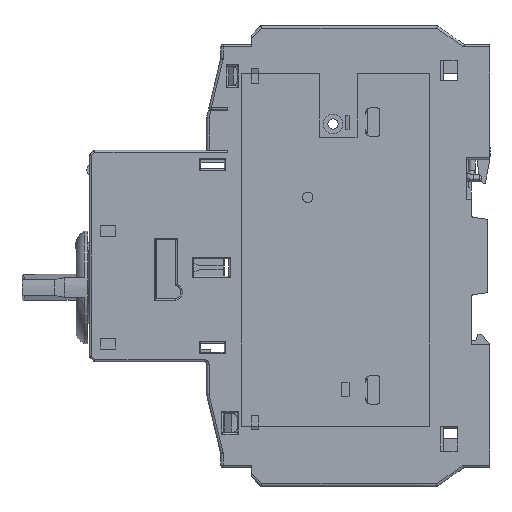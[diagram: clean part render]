
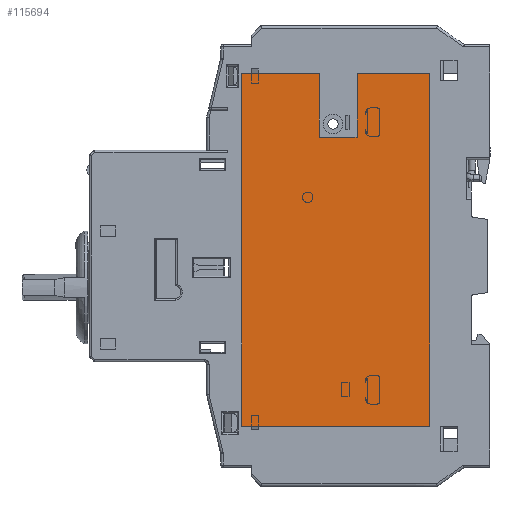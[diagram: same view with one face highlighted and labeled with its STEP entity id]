
A CAD part, left-side view. The second image highlights one B-rep face of the part: STEP entity #115694.
In plain terms, the highlighted planar face has unit normal (-1, 0, 0).
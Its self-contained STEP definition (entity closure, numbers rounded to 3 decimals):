
#26926=DIRECTION('',(0.,-1.,0.));
#26927=VECTOR('',#26926,40.);
#26928=CARTESIAN_POINT('',(-8.2,52.8,-36.2));
#26929=LINE('',#26928,#26927);
#26930=DIRECTION('',(0.,0.,-1.));
#26931=VECTOR('',#26930,75.);
#26932=CARTESIAN_POINT('',(-8.2,52.8,38.8));
#26933=LINE('',#26932,#26931);
#26934=DIRECTION('',(0.,1.,0.));
#26935=VECTOR('',#26934,16.5);
#26936=CARTESIAN_POINT('',(-8.2,36.3,38.8));
#26937=LINE('',#26936,#26935);
#26938=DIRECTION('',(0.,0.,1.));
#26939=VECTOR('',#26938,13.5);
#26940=CARTESIAN_POINT('',(-8.2,36.3,25.3));
#26941=LINE('',#26940,#26939);
#26942=DIRECTION('',(0.,1.,0.));
#26943=VECTOR('',#26942,8.);
#26944=CARTESIAN_POINT('',(-8.2,28.3,25.3));
#26945=LINE('',#26944,#26943);
#26946=DIRECTION('',(0.,0.,-1.));
#26947=VECTOR('',#26946,13.5);
#26948=CARTESIAN_POINT('',(-8.2,28.3,38.8));
#26949=LINE('',#26948,#26947);
#26950=DIRECTION('',(0.,1.,0.));
#26951=VECTOR('',#26950,15.5);
#26952=CARTESIAN_POINT('',(-8.2,12.8,38.8));
#26953=LINE('',#26952,#26951);
#26954=DIRECTION('',(0.,0.,1.));
#26955=VECTOR('',#26954,75.);
#26956=CARTESIAN_POINT('',(-8.2,12.8,-36.2));
#26957=LINE('',#26956,#26955);
#82587=CARTESIAN_POINT('',(-8.2,52.8,-36.2));
#82588=CARTESIAN_POINT('',(-8.2,12.8,-36.2));
#82589=VERTEX_POINT('',#82587);
#82590=VERTEX_POINT('',#82588);
#82591=CARTESIAN_POINT('',(-8.2,12.8,38.8));
#82592=VERTEX_POINT('',#82591);
#82593=CARTESIAN_POINT('',(-8.2,28.3,38.8));
#82594=VERTEX_POINT('',#82593);
#82595=CARTESIAN_POINT('',(-8.2,28.3,25.3));
#82596=VERTEX_POINT('',#82595);
#82597=CARTESIAN_POINT('',(-8.2,36.3,25.3));
#82598=VERTEX_POINT('',#82597);
#82599=CARTESIAN_POINT('',(-8.2,36.3,38.8));
#82600=VERTEX_POINT('',#82599);
#82601=CARTESIAN_POINT('',(-8.2,52.8,38.8));
#82602=VERTEX_POINT('',#82601);
#115679=CARTESIAN_POINT('',(-8.2,32.8,1.3));
#115680=DIRECTION('',(-1.,0.,0.));
#115681=DIRECTION('',(0.,0.,1.));
#115682=AXIS2_PLACEMENT_3D('',#115679,#115680,#115681);
#115683=PLANE('',#115682);
#115684=ORIENTED_EDGE('',*,*,#115571,.F.);
#115685=ORIENTED_EDGE('',*,*,#115588,.F.);
#115686=ORIENTED_EDGE('',*,*,#115602,.F.);
#115687=ORIENTED_EDGE('',*,*,#115618,.F.);
#115688=ORIENTED_EDGE('',*,*,#115632,.F.);
#115689=ORIENTED_EDGE('',*,*,#115646,.F.);
#115690=ORIENTED_EDGE('',*,*,#115660,.F.);
#115691=ORIENTED_EDGE('',*,*,#115673,.F.);
#115692=EDGE_LOOP('',(#115684,#115685,#115686,#115687,#115688,#115689,#115690,
#115691));
#115693=FACE_OUTER_BOUND('',#115692,.F.);
#115694=ADVANCED_FACE('',(#115693),#115683,.T.);
#115571=EDGE_CURVE('',#82589,#82590,#26929,.T.);
#115588=EDGE_CURVE('',#82602,#82589,#26933,.T.);
#115602=EDGE_CURVE('',#82600,#82602,#26937,.T.);
#115618=EDGE_CURVE('',#82598,#82600,#26941,.T.);
#115632=EDGE_CURVE('',#82596,#82598,#26945,.T.);
#115646=EDGE_CURVE('',#82594,#82596,#26949,.T.);
#115660=EDGE_CURVE('',#82592,#82594,#26953,.T.);
#115673=EDGE_CURVE('',#82590,#82592,#26957,.T.);
